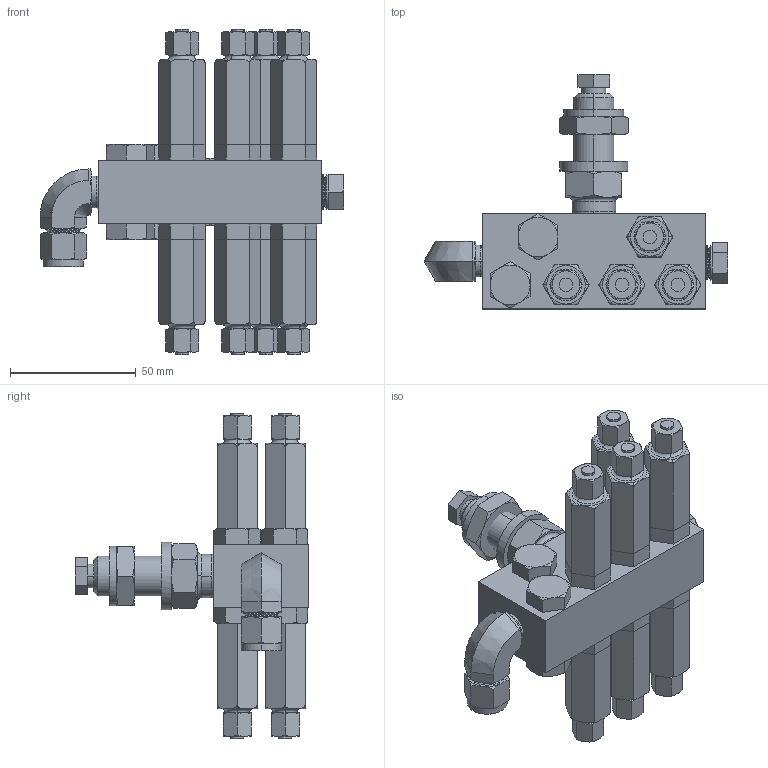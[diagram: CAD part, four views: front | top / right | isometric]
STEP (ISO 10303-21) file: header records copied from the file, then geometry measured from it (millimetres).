
FILE_DESCRIPTION((''),'2;1');
FILE_NAME('563646-EN-M_PRT','2020-01-24T15:03:21',('qusrh3'),(''),'CREO PARAMETRIC BY PTC INC, 2019030','CREO PARAMETRIC BY PTC INC, 2019030','');
FILE_SCHEMA(('CONFIG_CONTROL_DESIGN'));
Length unit declared in the file: inch
Products named in the file (1): 563646-EN-M_PRT
Bounding box: 120.93 x 93.09 x 129.69 mm (x, y, z)
Surface area: 52431.7 mm2 (no closed solid volume)
Topology: 0 solids, 62 shells, 484 faces, 1201 edges, 772 vertices
Faces by surface type: plane 270, cone 135, torus 42, cylinder 36, bspline 1
Entity records: 19667 total; most frequent: CARTESIAN_POINT 8900, DIRECTION 2131, ORIENTED_EDGE 2109, EDGE_CURVE 1201, AXIS2_PLACEMENT_3D 796, VERTEX_POINT 772, VECTOR 539, LINE 539
